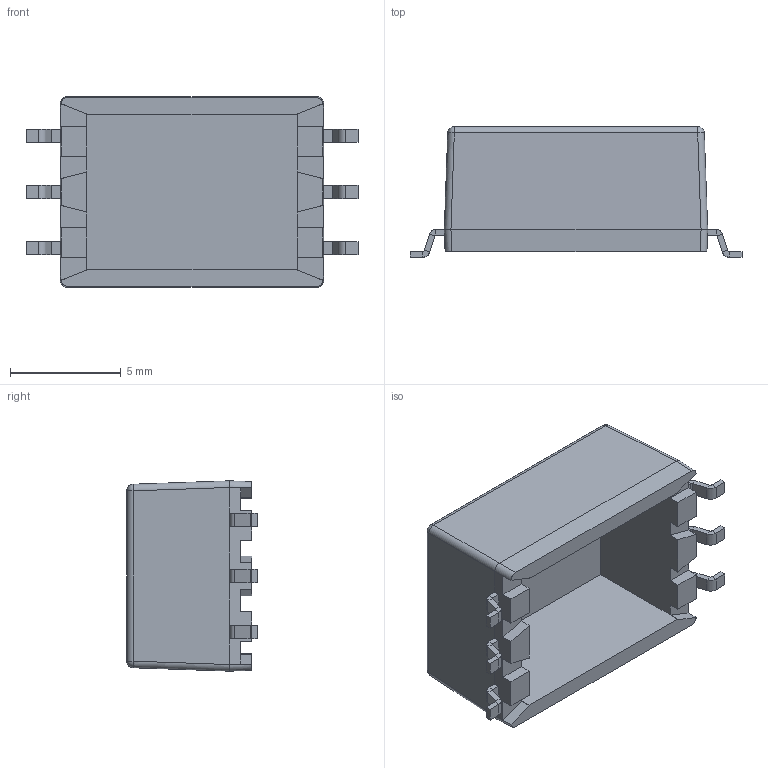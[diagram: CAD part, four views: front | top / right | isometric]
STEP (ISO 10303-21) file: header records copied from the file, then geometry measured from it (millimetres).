
FILE_DESCRIPTION (( 'STEP AP203' ), '1' );
FILE_NAME ('S06Rxx.STEP', '2025-07-02T09:54:25', ( '' ), ( '' ), 'SwSTEP 2.0', 'SolidWorks 2022', '' );
FILE_SCHEMA (( 'CONFIG_CONTROL_DESIGN' ));
Length unit declared in the file: millimetre
Products named in the file (3): S06Rxx Case; S06Rxx Pin; S06Rxx
Assembly tree (7 placements, depth 2):
  S06Rxx
    S06Rxx Case
    S06Rxx Pin  x6
Bounding box: 15 x 5.9 x 8.6 mm (x, y, z)
Volume: 229.9 mm3; surface area: 625 mm2
Topology: 7 solids, 7 shells, 231 faces, 516 edges, 300 vertices
Faces by surface type: plane 189, cylinder 38, sphere 4
Entity records: 3903 total; most frequent: CARTESIAN_POINT 655, ORIENTED_EDGE 592, DIRECTION 566, EDGE_CURVE 296, VECTOR 256, LINE 256, VERTEX_POINT 180, AXIS2_PLACEMENT_3D 155
